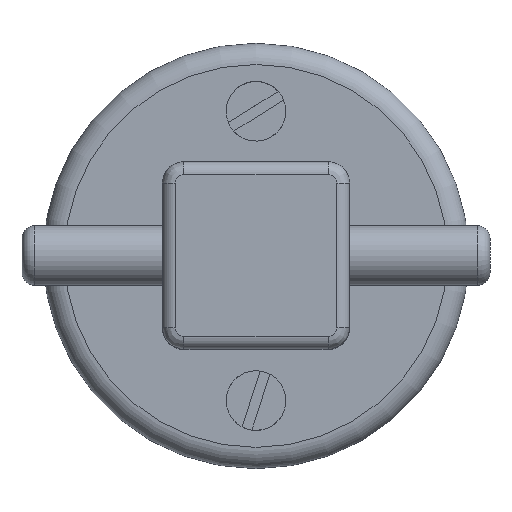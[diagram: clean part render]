
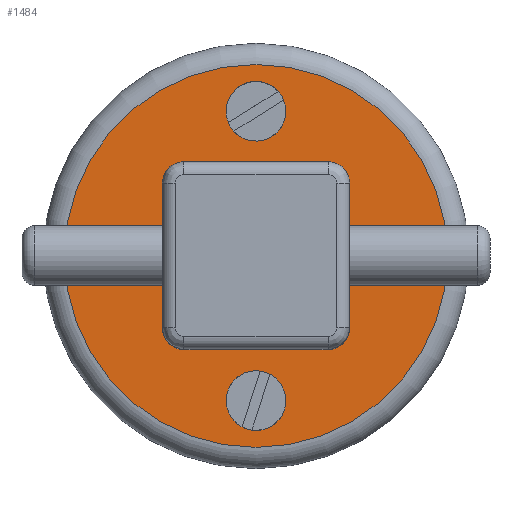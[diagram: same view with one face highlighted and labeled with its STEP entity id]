
A CAD part, top view. The second image highlights one B-rep face of the part: STEP entity #1484.
In plain terms, the highlighted planar face has unit normal (0, 0, 1).
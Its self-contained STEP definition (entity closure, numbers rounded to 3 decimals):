
#109=FACE_BOUND('',#398,.T.);
#112=LINE('',#2273,#203);
#113=LINE('',#2277,#204);
#114=LINE('',#2281,#205);
#115=LINE('',#2284,#206);
#203=VECTOR('',#1802,10.);
#204=VECTOR('',#1805,10.);
#205=VECTOR('',#1808,10.);
#206=VECTOR('',#1811,10.);
#294=FACE_OUTER_BOUND('',#397,.T.);
#397=EDGE_LOOP('',(#985));
#398=EDGE_LOOP('',(#986,#987,#988,#989,#990,#991,#992,#993));
#503=CIRCLE('',#1606,4.5);
#504=CIRCLE('',#1607,0.5);
#505=CIRCLE('',#1608,0.5);
#506=CIRCLE('',#1609,0.5);
#507=CIRCLE('',#1610,0.5);
#617=VERTEX_POINT('',#2267);
#618=VERTEX_POINT('',#2269);
#619=VERTEX_POINT('',#2270);
#620=VERTEX_POINT('',#2272);
#621=VERTEX_POINT('',#2274);
#622=VERTEX_POINT('',#2276);
#623=VERTEX_POINT('',#2278);
#624=VERTEX_POINT('',#2280);
#625=VERTEX_POINT('',#2282);
#756=EDGE_CURVE('',#617,#617,#503,.T.);
#757=EDGE_CURVE('',#618,#619,#504,.T.);
#758=EDGE_CURVE('',#620,#618,#112,.T.);
#759=EDGE_CURVE('',#621,#620,#505,.T.);
#760=EDGE_CURVE('',#622,#621,#113,.T.);
#761=EDGE_CURVE('',#623,#622,#506,.T.);
#762=EDGE_CURVE('',#624,#623,#114,.T.);
#763=EDGE_CURVE('',#625,#624,#507,.T.);
#764=EDGE_CURVE('',#619,#625,#115,.T.);
#985=ORIENTED_EDGE('',*,*,#756,.F.);
#986=ORIENTED_EDGE('',*,*,#757,.F.);
#987=ORIENTED_EDGE('',*,*,#758,.F.);
#988=ORIENTED_EDGE('',*,*,#759,.F.);
#989=ORIENTED_EDGE('',*,*,#760,.F.);
#990=ORIENTED_EDGE('',*,*,#761,.F.);
#991=ORIENTED_EDGE('',*,*,#762,.F.);
#992=ORIENTED_EDGE('',*,*,#763,.F.);
#993=ORIENTED_EDGE('',*,*,#764,.F.);
#1443=PLANE('',#1605);
#1484=ADVANCED_FACE('',(#294,#109),#1443,.T.);
#1605=AXIS2_PLACEMENT_3D('',#2266,#1796,#1797);
#1606=AXIS2_PLACEMENT_3D('',#2268,#1798,#1799);
#1607=AXIS2_PLACEMENT_3D('',#2271,#1800,#1801);
#1608=AXIS2_PLACEMENT_3D('',#2275,#1803,#1804);
#1609=AXIS2_PLACEMENT_3D('',#2279,#1806,#1807);
#1610=AXIS2_PLACEMENT_3D('',#2283,#1809,#1810);
#1796=DIRECTION('center_axis',(0.,0.,1.));
#1797=DIRECTION('ref_axis',(1.,0.,0.));
#1798=DIRECTION('center_axis',(0.,0.,-1.));
#1799=DIRECTION('ref_axis',(1.,0.,0.));
#1800=DIRECTION('center_axis',(0.,0.,1.));
#1801=DIRECTION('ref_axis',(-0.707,0.707,0.));
#1802=DIRECTION('',(-1.,0.,0.));
#1803=DIRECTION('center_axis',(0.,0.,1.));
#1804=DIRECTION('ref_axis',(0.707,0.707,0.));
#1805=DIRECTION('',(0.,1.,0.));
#1806=DIRECTION('center_axis',(0.,0.,1.));
#1807=DIRECTION('ref_axis',(0.707,-0.707,0.));
#1808=DIRECTION('',(1.,0.,0.));
#1809=DIRECTION('center_axis',(0.,0.,1.));
#1810=DIRECTION('ref_axis',(-0.707,-0.707,0.));
#1811=DIRECTION('',(0.,-1.,0.));
#2266=CARTESIAN_POINT('Origin',(0.246,0.239,0.117));
#2267=CARTESIAN_POINT('',(-4.254,0.239,0.117));
#2268=CARTESIAN_POINT('Origin',(0.246,0.239,0.117));
#2269=CARTESIAN_POINT('',(-1.454,2.439,0.117));
#2270=CARTESIAN_POINT('',(-1.954,1.939,0.117));
#2271=CARTESIAN_POINT('Origin',(-1.454,1.939,0.117));
#2272=CARTESIAN_POINT('',(1.946,2.439,0.117));
#2273=CARTESIAN_POINT('',(1.346,2.439,0.117));
#2274=CARTESIAN_POINT('',(2.446,1.939,0.117));
#2275=CARTESIAN_POINT('Origin',(1.946,1.939,0.117));
#2276=CARTESIAN_POINT('',(2.446,-1.461,0.117));
#2277=CARTESIAN_POINT('',(2.446,-0.861,0.117));
#2278=CARTESIAN_POINT('',(1.946,-1.961,0.117));
#2279=CARTESIAN_POINT('Origin',(1.946,-1.461,0.117));
#2280=CARTESIAN_POINT('',(-1.454,-1.961,0.117));
#2281=CARTESIAN_POINT('',(-0.854,-1.961,0.117));
#2282=CARTESIAN_POINT('',(-1.954,-1.461,0.117));
#2283=CARTESIAN_POINT('Origin',(-1.454,-1.461,0.117));
#2284=CARTESIAN_POINT('',(-1.954,1.339,0.117));
